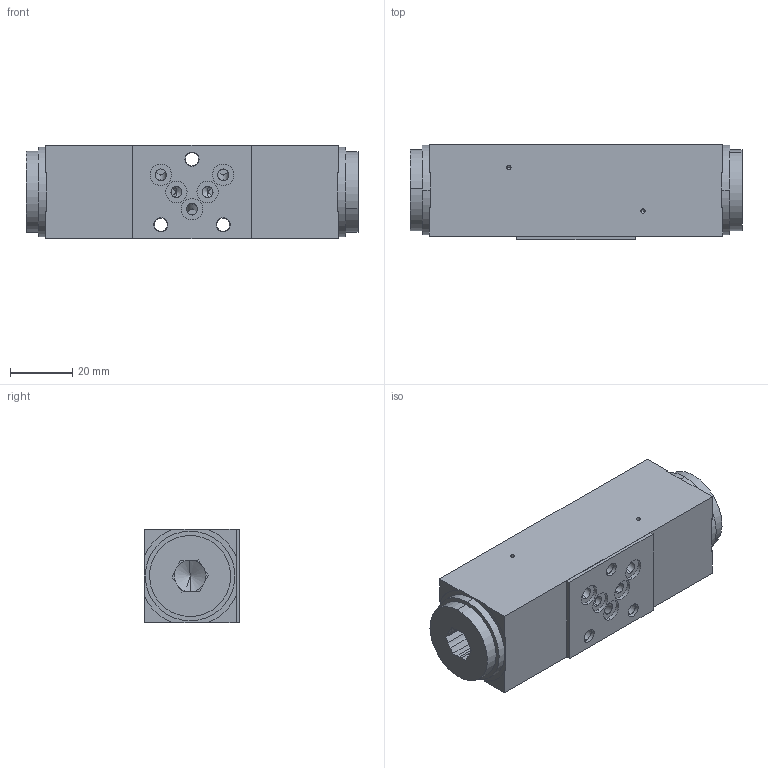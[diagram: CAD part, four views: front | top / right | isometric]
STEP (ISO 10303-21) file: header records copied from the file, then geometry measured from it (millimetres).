
FILE_DESCRIPTION (( 'STEP AP214' ), '1' );
FILE_NAME ('BDERV3.STEP', '2017-04-18T12:06:48', ( '' ), ( '' ), 'SwSTEP 2.0', 'SolidWorks 2016', '' );
FILE_SCHEMA (( 'AUTOMOTIVE_DESIGN' ));
Length unit declared in the file: millimetre
Products named in the file (1): BDERV3
Bounding box: 106.4 x 30.7 x 30 mm (x, y, z)
Volume: 87367.8 mm3; surface area: 18816.5 mm2
Topology: 2 solids, 2 shells, 170 faces, 442 edges, 282 vertices
Faces by surface type: cylinder 78, plane 72, cone 20
Entity records: 7061 total; most frequent: CARTESIAN_POINT 1193, ORIENTED_EDGE 860, DIRECTION 838, EDGE_CURVE 430, AXIS2_PLACEMENT_3D 307, VERTEX_POINT 282, LINE 224, VECTOR 224
